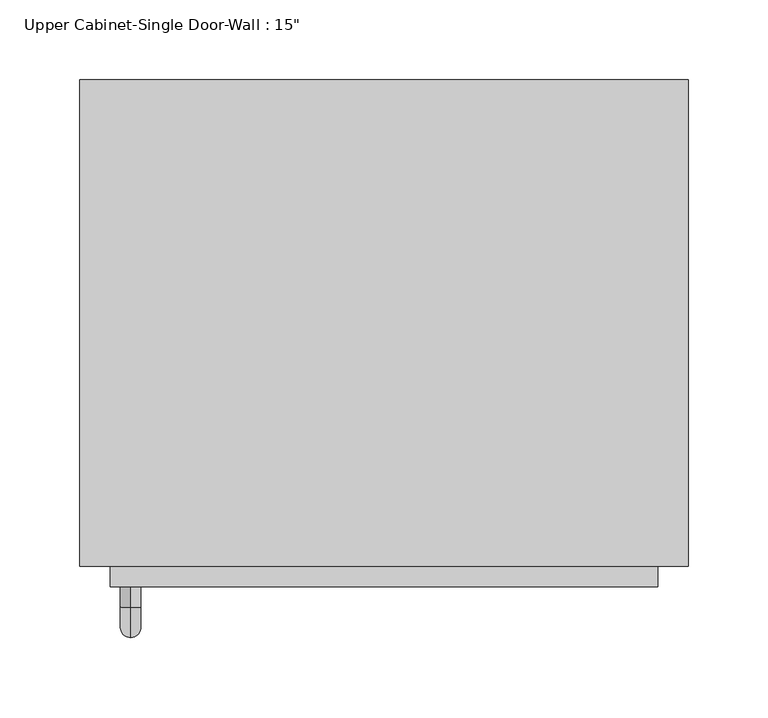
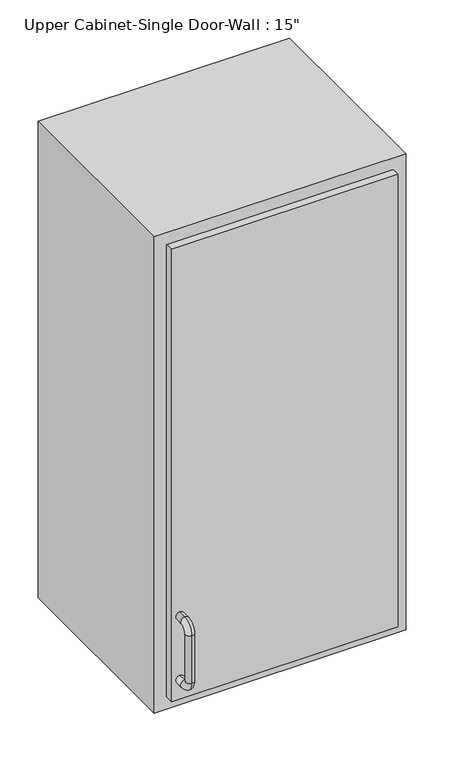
"""IFC4 building model written with IfcOpenShell, lengths in millimetres: furniture geometry."""

from ifc_helpers import new_model, si_unit, point, frame, origin, place, context, project, spatial, polyline, circle_curve, ellipse_curve, trimmed, outline, extrude, faceted_brep, source, transform, mapped, element, save
from ifc_brep_helpers import plane_surface, cylinder_surface, revolved_surface, advanced_brep


def furniture_a47b5ef4(model_context):
    return source(origin(), model_context, "Body", "SolidModel", [
        faceted_brep([(-160.7288372, -57.15, 2133.6), (220.2711628, -57.15, 2133.6), (220.2711628, -57.15, 1371.6), (-160.7288372, -57.15, 1371.6), (-160.7288372, -361.95, 2133.6), (-160.7288372, -361.95, 1371.6), (220.2711628, -361.95, 1371.6), (220.2711628, -361.95, 2133.6), (-141.6788372, -361.95, 2114.55), (201.2211628, -361.95, 2114.55), (201.2211628, -361.95, 1390.65), (-141.6788372, -361.95, 1390.65), (-141.6788372, -76.2, 2114.55), (201.2211628, -76.2, 2114.55), (201.2211628, -76.2, 1390.65), (-141.6788372, -76.2, 1390.65)], [[[0, 1, 2, 3]], [[4, 5, 6, 7], [8, 9, 10, 11]], [[3, 5, 4, 0]], [[2, 6, 5, 3]], [[1, 7, 6, 2]], [[0, 4, 7, 1]], [[8, 12, 13, 9]], [[9, 13, 14, 10]], [[10, 14, 15, 11]], [[11, 15, 12, 8]], [[12, 15, 14, 13]]]),
        advanced_brep(
        [(-128.9788372, -374.65, 1517.65), (-128.9788372, -374.65, 1530.35), (-128.9788372, -387.35, 1530.35), (-128.9788372, -387.35, 1517.65), (-128.9788372, -406.4, 1511.3), (-128.9788372, -393.7, 1511.3), (-128.9788372, -406.4, 1435.1), (-128.9788372, -393.7, 1435.1), (-128.9788372, -387.35, 1416.05), (-128.9788372, -387.35, 1428.75), (-128.9788372, -374.65, 1428.75), (-128.9788372, -374.65, 1416.05)],
        [
            (0, 1, circle_curve(frame((-128.9788372, -374.65, 1524.0), z_axis=(0.0, 1.0, 0.0), x_axis=(0.0, 0.0, 1.0)), 6.35)),
            (1, 0, circle_curve(frame((-128.9788372, -374.65, 1524.0), z_axis=(0.0, 1.0, 0.0), x_axis=(0.0, 0.0, 1.0)), 6.35)),
            (1, 2),
            (2, 3, circle_curve(frame((-128.9788372, -387.35, 1524.0), z_axis=(0.0, 1.0, 0.0), x_axis=(0.0, 0.0, 1.0)), 6.35)),
            (3, 0),
            (3, 2, circle_curve(frame((-128.9788372, -387.35, 1524.0), z_axis=(0.0, 1.0, 0.0), x_axis=(0.0, 0.0, 1.0)), 6.35)),
            (4, 5, circle_curve(frame((-128.9788372, -400.05, 1511.3), z_axis=(0.0, 0.0, 1.0), x_axis=(0.0, -1.0, 0.0)), 6.35)),
            (5, 3, circle_curve(frame((-128.9788372, -387.35, 1511.3), z_axis=(-1.0, 0.0, 0.0), x_axis=(0.0, 0.0, 1.0)), 6.35)),
            (2, 4, circle_curve(frame((-128.9788372, -387.35, 1511.3), z_axis=(1.0, 0.0, 0.0), x_axis=(0.0, 0.0, 1.0)), 19.05)),
            (5, 4, circle_curve(frame((-128.9788372, -400.05, 1511.3), z_axis=(0.0, 0.0, 1.0), x_axis=(0.0, -1.0, 0.0)), 6.35)),
            (4, 6),
            (6, 7, circle_curve(frame((-128.9788372, -400.05, 1435.1), z_axis=(0.0, 0.0, 1.0), x_axis=(0.0, -1.0, 0.0)), 6.35)),
            (7, 5),
            (7, 6, circle_curve(frame((-128.9788372, -400.05, 1435.1), z_axis=(0.0, 0.0, 1.0), x_axis=(0.0, -1.0, 0.0)), 6.35)),
            (8, 9, circle_curve(frame((-128.9788372, -387.35, 1422.4), z_axis=(0.0, -1.0, 0.0), x_axis=(0.0, 0.0, -1.0)), 6.35)),
            (9, 7, circle_curve(frame((-128.9788372, -387.35, 1435.1), z_axis=(-1.0, 0.0, 0.0), x_axis=(0.0, -1.0, 0.0)), 6.35)),
            (6, 8, circle_curve(frame((-128.9788372, -387.35, 1435.1), z_axis=(1.0, 0.0, 0.0), x_axis=(0.0, -1.0, 0.0)), 19.05)),
            (9, 8, circle_curve(frame((-128.9788372, -387.35, 1422.4), z_axis=(0.0, -1.0, 0.0), x_axis=(0.0, 0.0, -1.0)), 6.35)),
            (10, 11, circle_curve(frame((-128.9788372, -374.65, 1422.4), z_axis=(0.0, 1.0, 0.0), x_axis=(0.0, 0.0, -1.0)), 6.35)),
            (11, 10, circle_curve(frame((-128.9788372, -374.65, 1422.4), z_axis=(0.0, 1.0, 0.0), x_axis=(0.0, 0.0, -1.0)), 6.35)),
            (8, 11),
            (10, 9),
        ],
        [
            plane_surface(frame((-135.3288372, -374.65, 1524.0), z_axis=(0.0, 1.0, 0.0), x_axis=(0.0, 0.0, 1.0))),
            cylinder_surface(frame((-128.9788372, -374.65, 1524.0), z_axis=(0.0, 1.0, 0.0), x_axis=(0.0, 0.0, 1.0)), 6.35),
            revolved_surface(trimmed(ellipse_curve(frame((-128.9788372, -387.35, 1524.0), z_axis=(0.0, -1.0, 0.0), x_axis=(0.0, 0.0, 1.0)), 6.35, 6.35), [point((-128.9788372, -387.35, 1517.65))], [point((-128.9788372, -387.35, 1530.35))], True, "CARTESIAN"), (-128.9788372, -387.35, 1511.3), (-1.0, 0.0, 0.0)),
            revolved_surface(trimmed(ellipse_curve(frame((-128.9788372, -387.35, 1524.0), z_axis=(0.0, -1.0, 0.0), x_axis=(0.0, 0.0, 1.0)), 6.35, 6.35), [point((-128.9788372, -387.35, 1530.35))], [point((-128.9788372, -387.35, 1517.65))], True, "CARTESIAN"), (-128.9788372, -387.35, 1511.3), (-1.0, 0.0, 0.0)),
            cylinder_surface(frame((-128.9788372, -400.05, 1511.3), z_axis=(0.0, 0.0, 1.0), x_axis=(0.0, -1.0, 0.0)), 6.35),
            revolved_surface(trimmed(ellipse_curve(frame((-128.9788372, -400.05, 1435.1), z_axis=(0.0, 0.0, -1.0), x_axis=(0.0, -1.0, 0.0)), 6.35, 6.35), [point((-128.9788372, -393.7, 1435.1))], [point((-128.9788372, -406.4, 1435.1))], True, "CARTESIAN"), (-128.9788372, -387.35, 1435.1), (-1.0, 0.0, 0.0)),
            revolved_surface(trimmed(ellipse_curve(frame((-128.9788372, -400.05, 1435.1), z_axis=(0.0, 0.0, -1.0), x_axis=(0.0, -1.0, 0.0)), 6.35, 6.35), [point((-128.9788372, -406.4, 1435.1))], [point((-128.9788372, -393.7, 1435.1))], True, "CARTESIAN"), (-128.9788372, -387.35, 1435.1), (-1.0, 0.0, 0.0)),
            plane_surface(frame((-135.3288372, -374.65, 1422.4), z_axis=(0.0, 1.0, 0.0), x_axis=(0.0, 0.0, -1.0))),
            cylinder_surface(frame((-128.9788372, -387.35, 1422.4), z_axis=(0.0, -1.0, 0.0), x_axis=(0.0, 0.0, -1.0)), 6.35),
        ],
        [
            (0, [[1, 2]]),
            (1, [[3, 4, 5, -2]]),
            (1, [[-5, 6, -3, -1]]),
            (2, [[7, 8, -4, 9]]),
            (3, [[10, -9, -6, -8]]),
            (4, [[11, 12, 13, -7]]),
            (4, [[-13, 14, -11, -10]]),
            (5, [[15, 16, -12, 17]]),
            (6, [[18, -17, -14, -16]]),
            (7, [[19, 20]]),
            (8, [[21, -19, 22, -15]]),
            (8, [[-22, -20, -21, -18]]),
        ],
    ),
        extrude(outline(polyline([(-141.6788372, -374.65), (-141.6788372, -342.9), (201.2211628, -342.9), (201.2211628, -374.65), (-141.6788372, -374.65)])), frame((0.0, 0.0, 1390.65), z_axis=(0.0, 0.0, 1.0), x_axis=(1.0, 0.0, 0.0)), (0.0, 0.0, 1.0), 723.9),
    ])


if __name__ == "__main__":
    model = new_model("IFC4")
    model_context = context("Model", 3, world=origin())
    ifc_project = project(units=[si_unit("LENGTHUNIT", "METRE", prefix="MILLI")], contexts=[model_context])
    site = spatial("IfcSite", under=ifc_project)
    building = spatial("IfcBuilding", under=site)
    placement = place(None, origin())
    furniture_shape = furniture_a47b5ef4(model_context)
    element("IfcFurniture", 1, ObjectType="Upper Cabinet-Single Door-Wall : 15\"", at=placement, inside=building, context=model_context, shape_type="MappedRepresentation", body=[
        mapped(furniture_shape, transform((0.0, 0.0, 0.0), x_axis=(1.0, 0.0, 0.0), y_axis=(0.0, 1.0, 0.0), z_axis=(0.0, 0.0, 1.0))),
    ])
    save(model, "model.ifc")
